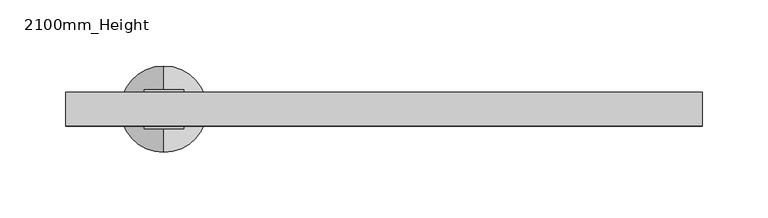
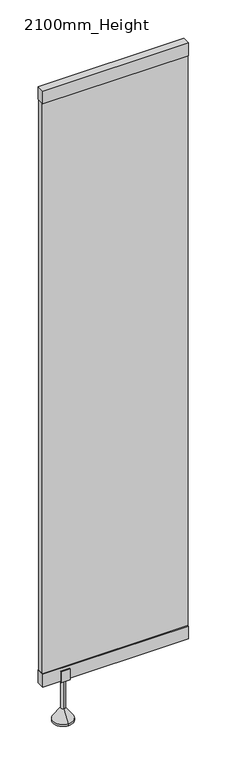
"""IFC4 building model written with IfcOpenShell, lengths in millimetres: flow terminal geometry, Plumbing_Fixtures_Toile_Cubicle_Extension_Panel : 2100mm_Height."""

from ifc_helpers import new_model, si_unit, frame, origin, place, context, project, spatial, polyline, circle_curve, outline, extrude, source, transform, mapped, element, save
from ifc_brep_helpers import plane_surface, cylinder_surface, revolved_surface, advanced_brep


def flow_terminal_2100mm_height_1f2eed72(model_context):
    return source(origin(), model_context, "Body", "SolidModel", [
        extrude(outline(polyline([(-1785.0, 145.0), (-1815.0, 145.0), (-1815.0, 185.0), (-1810.0, 185.0), (-1810.0, 150.0), (-1790.0, 150.0), (-1790.0, 185.0), (-1785.0, 185.0), (-1785.0, 145.0)])), frame((457.9310706, 0.0, 0.0), z_axis=(1.0, 0.0, 0.0), x_axis=(0.0, 1.0, 0.0)), (0.0, 0.0, 1.0), 30.0),
        advanced_brep(
        [(472.9310706, -1832.9430575, 7.2339182), (472.9310706, -1767.0569425, 7.2339182), (472.9310706, -1792.5, 43.57037), (472.9310706, -1807.5, 43.57037), (472.9310706, -1832.9430575, 0.0), (472.9310706, -1767.0569425, 0.0), (472.9310706, -1800.0, 0.0), (472.9310706, -1807.5, 145.0), (472.9310706, -1792.5, 145.0), (472.9310706, -1800.0, 145.0)],
        [
            (0, 1, circle_curve(frame((472.9310706, -1800.0, 7.2339182), z_axis=(0.0, 0.0, 1.0), x_axis=(0.0, 1.0, 0.0)), 32.9430575)),
            (1, 2),
            (2, 3, circle_curve(frame((472.9310706, -1800.0, 43.57037), z_axis=(0.0, 0.0, -1.0), x_axis=(0.0, 1.0, 0.0)), 7.5)),
            (3, 0),
            (1, 0, circle_curve(frame((472.9310706, -1800.0, 7.2339182), z_axis=(0.0, 0.0, 1.0), x_axis=(0.0, 1.0, 0.0)), 32.9430575)),
            (3, 2, circle_curve(frame((472.9310706, -1800.0, 43.57037), z_axis=(0.0, 0.0, -1.0), x_axis=(0.0, 1.0, 0.0)), 7.5)),
            (4, 5, circle_curve(frame((472.9310706, -1800.0, 0.0), z_axis=(0.0, 0.0, 1.0), x_axis=(0.0, 1.0, 0.0)), 32.9430575)),
            (5, 1),
            (0, 4),
            (5, 4, circle_curve(frame((472.9310706, -1800.0, 0.0), z_axis=(0.0, 0.0, 1.0), x_axis=(0.0, 1.0, 0.0)), 32.9430575)),
            (6, 5),
            (4, 6),
            (7, 8, circle_curve(frame((472.9310706, -1800.0, 145.0), z_axis=(0.0, 0.0, 1.0), x_axis=(0.0, 1.0, 0.0)), 7.5)),
            (8, 9),
            (9, 7),
            (8, 7, circle_curve(frame((472.9310706, -1800.0, 145.0), z_axis=(0.0, 0.0, 1.0), x_axis=(0.0, 1.0, 0.0)), 7.5)),
            (2, 8),
            (7, 3),
        ],
        [
            revolved_surface(polyline([(472.9310706, -1792.5, 43.57037), (472.9310706, -1767.0569425, 7.2339182)]), (472.9310706, -1800.0, -60.0), (0.0, 0.0, -1.0)),
            cylinder_surface(frame((472.9310706, -1800.0, -60.0), z_axis=(0.0, 0.0, -1.0), x_axis=(0.0, 1.0, 0.0)), 32.9430575),
            plane_surface(frame((472.9310706, -1800.0, 0.0), z_axis=(0.0, 0.0, -1.0), x_axis=(0.0, 1.0, 0.0))),
            plane_surface(frame((472.9310706, -1800.0, 145.0), z_axis=(0.0, 0.0, 1.0), x_axis=(0.0, 1.0, 0.0))),
            cylinder_surface(frame((472.9310706, -1800.0, -60.0), z_axis=(0.0, 0.0, -1.0), x_axis=(0.0, 1.0, 0.0)), 7.5),
        ],
        [
            (0, [[1, 2, 3, 4]]),
            (0, [[5, -4, 6, -2]]),
            (1, [[7, 8, -1, 9]]),
            (1, [[10, -9, -5, -8]]),
            (2, [[11, -7, 12]]),
            (2, [[-12, -10, -11]]),
            (3, [[13, 14, 15]]),
            (3, [[16, -15, -14]]),
            (4, [[-3, 17, -13, 18]]),
            (4, [[-6, -18, -16, -17]]),
        ],
    ),
        extrude(outline(polyline([(883.8310705, -1813.0), (397.9310706, -1813.0), (397.9310706, -1787.2947936), (883.8310705, -1787.2947936), (883.8310705, -1813.0)])), frame((0.0, 0.0, 2205.0), z_axis=(0.0, 0.0, 1.0), x_axis=(1.0, 0.0, 0.0)), (0.0, 0.0, 1.0), 45.0),
        extrude(outline(polyline([(883.8310705, -1813.0), (397.9310706, -1813.0), (397.9310706, -1787.2947936), (883.8310705, -1787.2947936), (883.8310705, -1813.0)])), frame((0.0, 0.0, 150.0), z_axis=(0.0, 0.0, 1.0), x_axis=(1.0, 0.0, 0.0)), (0.0, 0.0, 1.0), 45.0),
        extrude(outline(polyline([(397.9310706, -1810.0), (397.9310706, -1790.0), (883.8310705, -1790.0), (883.8310705, -1810.0), (397.9310706, -1810.0)])), frame((0.0, 0.0, 195.0), z_axis=(0.0, 0.0, 1.0), x_axis=(1.0, 0.0, 0.0)), (0.0, 0.0, 1.0), 2010.0),
    ])


if __name__ == "__main__":
    model = new_model("IFC4")
    model_context = context("Model", 3, world=origin())
    ifc_project = project(units=[si_unit("LENGTHUNIT", "METRE", prefix="MILLI")], contexts=[model_context])
    site = spatial("IfcSite", under=ifc_project)
    building = spatial("IfcBuilding", under=site)
    placement = place(None, origin())
    flow_terminal_2100mm_height_shape = flow_terminal_2100mm_height_1f2eed72(model_context)
    element("IfcFlowTerminal", 1, ObjectType="Plumbing_Fixtures_Toile_Cubicle_Extension_Panel : 2100mm_Height", at=placement, inside=building, context=model_context, shape_type="MappedRepresentation", body=[
        mapped(flow_terminal_2100mm_height_shape, transform((0.0, 0.0, 0.0), x_axis=(1.0, 0.0, 0.0), y_axis=(0.0, 1.0, 0.0), z_axis=(0.0, 0.0, 1.0))),
    ])
    save(model, "model.ifc")
